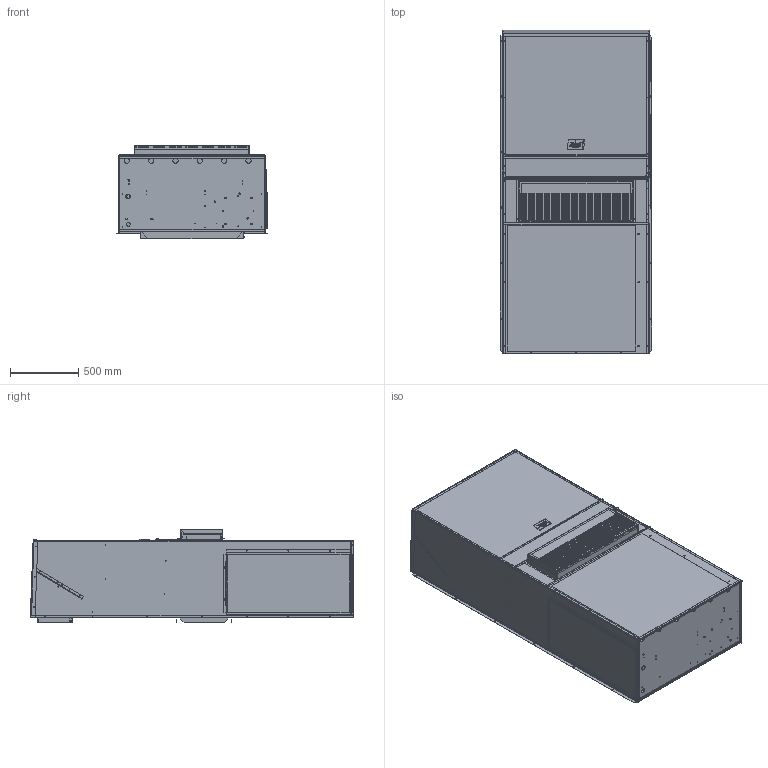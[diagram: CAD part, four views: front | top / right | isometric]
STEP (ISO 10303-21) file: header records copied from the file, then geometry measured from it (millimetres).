
FILE_DESCRIPTION (( 'STEP AP203' ), '1' );
FILE_NAME ('STEP_1200_3.STEP', '2016-06-28T20:17:24', ( 'BMC' ), ( 'Bard Manufacturing Co., Inc.' ), 'SwSTEP 2.0', 'SolidWorks 2016', '' );
FILE_SCHEMA (( 'CONFIG_CONTROL_DESIGN' ));
Products named in the file (1): STEP_1200_3
Bounding box: 1110.85 x 2364.92 x 680.02 mm (x, y, z)
Surface area: 20433682.8 mm2 (no closed solid volume)
Topology: 0 solids, 61 shells, 4150 faces, 11951 edges, 7741 vertices
Faces by surface type: plane 1797, cylinder 1347, bspline 989, cone 12, torus 4, sphere 1
Entity records: 171710 total; most frequent: CARTESIAN_POINT 65252, ORIENTED_EDGE 22690, DIRECTION 20702, EDGE_CURVE 11939, VERTEX_POINT 7740, AXIS2_PLACEMENT_3D 7076, VECTOR 6550, LINE 6550
